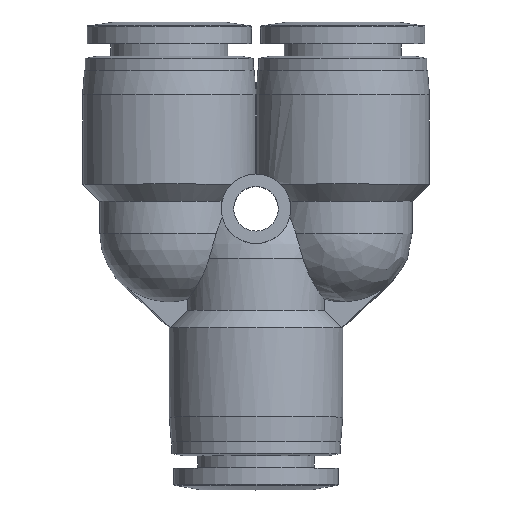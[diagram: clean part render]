
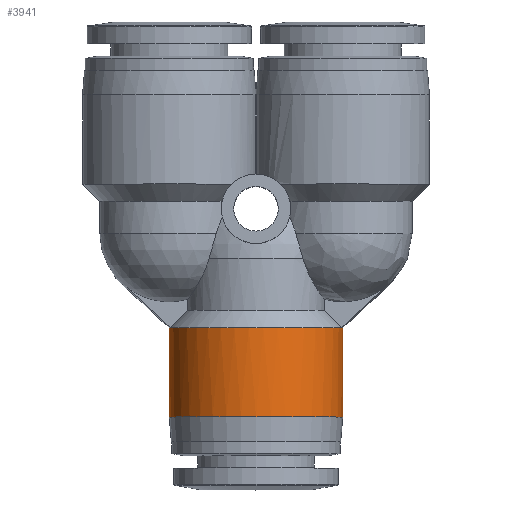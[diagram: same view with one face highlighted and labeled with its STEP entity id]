
A CAD part, top view. The second image highlights one B-rep face of the part: STEP entity #3941.
In plain terms, the highlighted cylindrical face has radius 8.75 mm (diameter 17.5 mm), a partial arc.
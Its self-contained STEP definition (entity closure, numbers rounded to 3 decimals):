
#183 = VERTEX_POINT ( 'NONE', #4611 ) ;
#217 = VERTEX_POINT ( 'NONE', #1481 ) ;
#279 = CARTESIAN_POINT ( 'NONE',  ( 0., 9., 0. ) ) ;
#295 = VERTEX_POINT ( 'NONE', #846 ) ;
#330 = EDGE_CURVE ( 'NONE', #217, #295, #1916, .T. ) ;
#345 = ORIENTED_EDGE ( 'NONE', *, *, #3402, .F. ) ;
#470 = ORIENTED_EDGE ( 'NONE', *, *, #3393, .F. ) ;
#538 = EDGE_CURVE ( 'NONE', #4507, #1863, #4231, .T. ) ;
#632 = CARTESIAN_POINT ( 'NONE',  ( -8.75, 0., 0. ) ) ;
#717 = DIRECTION ( 'NONE',  ( 0., 1., 0. ) ) ;
#798 = CARTESIAN_POINT ( 'NONE',  ( -8.66, 9., 1.25 ) ) ;
#846 = CARTESIAN_POINT ( 'NONE',  ( 8.75, 9., 0. ) ) ;
#992 = DIRECTION ( 'NONE',  ( -1., 0., 0. ) ) ;
#1021 = CARTESIAN_POINT ( 'NONE',  ( -8.75, 4.5, 0. ) ) ;
#1129 = ORIENTED_EDGE ( 'NONE', *, *, #538, .T. ) ;
#1134 = CIRCLE ( 'NONE', #4119, 8.75 ) ;
#1148 = CARTESIAN_POINT ( 'NONE',  ( -8.75, 9., 0.418 ) ) ;
#1319 = DIRECTION ( 'NONE',  ( 0., 1., 0. ) ) ;
#1459 = CARTESIAN_POINT ( 'NONE',  ( 0., 4.5, 0. ) ) ;
#1481 = CARTESIAN_POINT ( 'NONE',  ( 8.66, 9., 1.25 ) ) ;
#1582 = CARTESIAN_POINT ( 'NONE',  ( 8.66, 9., 1.25 ) ) ;
#1606 = CARTESIAN_POINT ( 'NONE',  ( 8.75, 9., 0. ) ) ;
#1863 = VERTEX_POINT ( 'NONE', #4079 ) ;
#1906 = AXIS2_PLACEMENT_3D ( 'NONE', #1459, #4631, #4610 ) ;
#1916 = B_SPLINE_CURVE_WITH_KNOTS ( 'NONE', 3,
 ( #1582, #3729, #2659, #1606 ),
 .UNSPECIFIED., .F., .F.,
 ( 4, 4 ),
 ( 0., 0.5 ),
 .UNSPECIFIED. ) ;
#1929 = EDGE_CURVE ( 'NONE', #2865, #217, #1134, .T. ) ;
#2129 = VECTOR ( 'NONE', #3368, 1000. ) ;
#2175 = DIRECTION ( 'NONE',  ( -1., 0., 0. ) ) ;
#2540 = LINE ( 'NONE', #1021, #3100 ) ;
#2591 = CARTESIAN_POINT ( 'NONE',  ( -8.72, 9., 0.836 ) ) ;
#2604 = ORIENTED_EDGE ( 'NONE', *, *, #4362, .T. ) ;
#2659 = CARTESIAN_POINT ( 'NONE',  ( 8.75, 9., 0.418 ) ) ;
#2841 = FACE_OUTER_BOUND ( 'NONE', #3254, .T. ) ;
#2865 = VERTEX_POINT ( 'NONE', #3596 ) ;
#3100 = VECTOR ( 'NONE', #3852, 1000. ) ;
#3254 = EDGE_LOOP ( 'NONE', ( #1129, #2604, #4305, #3725, #470, #345 ) ) ;
#3296 = CARTESIAN_POINT ( 'NONE',  ( 8.75, 4.5, 0. ) ) ;
#3368 = DIRECTION ( 'NONE',  ( 0., 1., 0. ) ) ;
#3393 = EDGE_CURVE ( 'NONE', #183, #2865, #4614, .T. ) ;
#3402 = EDGE_CURVE ( 'NONE', #4507, #183, #2540, .T. ) ;
#3412 = AXIS2_PLACEMENT_3D ( 'NONE', #4617, #717, #2175 ) ;
#3596 = CARTESIAN_POINT ( 'NONE',  ( -8.66, 9., 1.25 ) ) ;
#3725 = ORIENTED_EDGE ( 'NONE', *, *, #1929, .F. ) ;
#3729 = CARTESIAN_POINT ( 'NONE',  ( 8.72, 9., 0.836 ) ) ;
#3852 = DIRECTION ( 'NONE',  ( 0., 1., 0. ) ) ;
#3941 = ADVANCED_FACE ( 'NONE', ( #2841 ), #4259, .T. ) ;
#4044 = LINE ( 'NONE', #3296, #2129 ) ;
#4079 = CARTESIAN_POINT ( 'NONE',  ( 8.75, 0., 0. ) ) ;
#4119 = AXIS2_PLACEMENT_3D ( 'NONE', #279, #1319, #992 ) ;
#4231 = CIRCLE ( 'NONE', #3412, 8.75 ) ;
#4259 = CYLINDRICAL_SURFACE ( 'NONE', #1906, 8.75 ) ;
#4305 = ORIENTED_EDGE ( 'NONE', *, *, #330, .F. ) ;
#4352 = CARTESIAN_POINT ( 'NONE',  ( -8.75, 9., 0. ) ) ;
#4362 = EDGE_CURVE ( 'NONE', #1863, #295, #4044, .T. ) ;
#4507 = VERTEX_POINT ( 'NONE', #632 ) ;
#4610 = DIRECTION ( 'NONE',  ( -1., 0., 0. ) ) ;
#4611 = CARTESIAN_POINT ( 'NONE',  ( -8.75, 9., 0. ) ) ;
#4614 = B_SPLINE_CURVE_WITH_KNOTS ( 'NONE', 3,
 ( #4352, #1148, #2591, #798 ),
 .UNSPECIFIED., .F., .F.,
 ( 4, 4 ),
 ( 0., 1. ),
 .UNSPECIFIED. ) ;
#4617 = CARTESIAN_POINT ( 'NONE',  ( 0., 0., 0. ) ) ;
#4631 = DIRECTION ( 'NONE',  ( 0., 1., 0. ) ) ;
